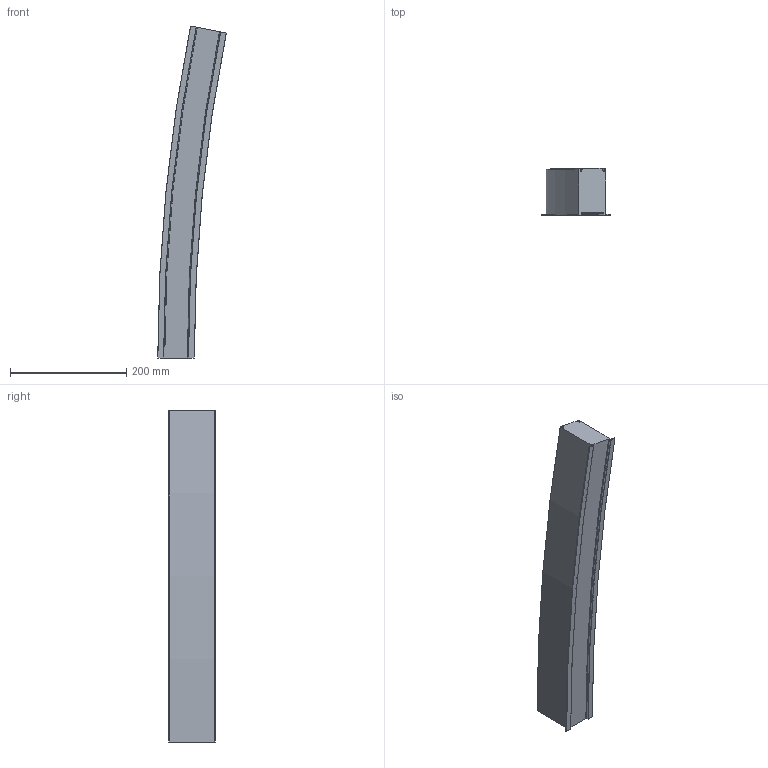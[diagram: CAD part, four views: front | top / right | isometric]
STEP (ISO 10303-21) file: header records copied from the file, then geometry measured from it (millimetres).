
FILE_DESCRIPTION (( 'STEP AP203' ), '1' );
FILE_NAME ('mLight_Swerve 47 Recessed_R2900 mm 11.25 deg.STEP', '2020-04-01T10:06:28', ( '' ), ( '' ), 'SwSTEP 2.0', 'SolidWorks 2017', '' );
FILE_SCHEMA (( 'CONFIG_CONTROL_DESIGN' ));
Length unit declared in the file: millimetre
Products named in the file (1): mLight_Swerve 47 Recessed_R2900 mm 11.25 deg
Bounding box: 118.12 x 80.63 x 571.91 mm (x, y, z)
Volume: 2067537.8 mm3; surface area: 182647.4 mm2
Topology: 1 solids, 1 shells, 54 faces, 156 edges, 104 vertices
Faces by surface type: torus 28, plane 12, cylinder 8, cone 6
Entity records: 1925 total; most frequent: DIRECTION 374, CARTESIAN_POINT 315, ORIENTED_EDGE 312, AXIS2_PLACEMENT_3D 163, EDGE_CURVE 156, CIRCLE 108, VERTEX_POINT 104, EDGE_LOOP 54
